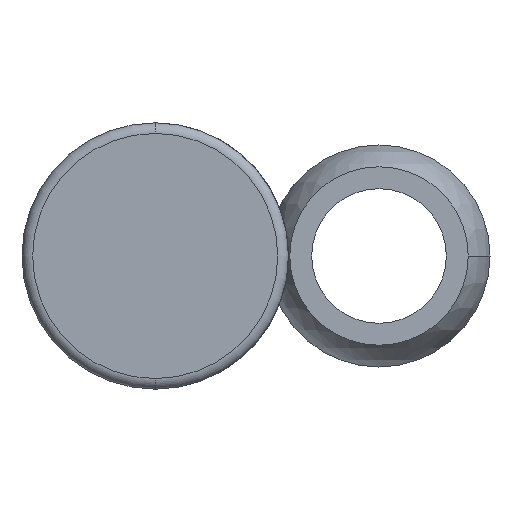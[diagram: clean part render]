
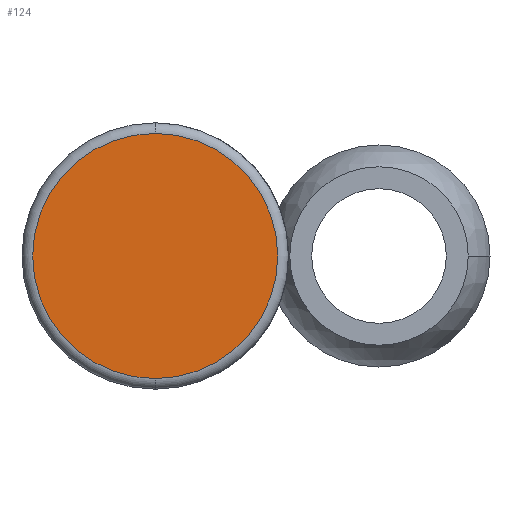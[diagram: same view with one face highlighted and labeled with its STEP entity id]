
A CAD part, front view. The second image highlights one B-rep face of the part: STEP entity #124.
In plain terms, the highlighted planar face has unit normal (0, -1, 0).
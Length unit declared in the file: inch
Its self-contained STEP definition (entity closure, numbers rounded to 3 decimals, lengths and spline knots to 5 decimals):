
#38 = CARTESIAN_POINT ( 'NONE',  ( 0., -1.25, 0. ) ) ;
#124 = ADVANCED_FACE ( 'NONE', ( #383 ), #883, .F. ) ;
#188 = CIRCLE ( 'NONE', #585, 0.345 ) ;
#314 = EDGE_LOOP ( 'NONE', ( #564, #831 ) ) ;
#354 = DIRECTION ( 'NONE',  ( 0., -1., 0. ) ) ;
#383 = FACE_OUTER_BOUND ( 'NONE', #314, .T. ) ;
#390 = AXIS2_PLACEMENT_3D ( 'NONE', #443, #354, #819 ) ;
#429 = CARTESIAN_POINT ( 'NONE',  ( 0., -1.25, 0. ) ) ;
#443 = CARTESIAN_POINT ( 'NONE',  ( 0., -1.25, 0. ) ) ;
#463 = VERTEX_POINT ( 'NONE', #1123 ) ;
#564 = ORIENTED_EDGE ( 'NONE', *, *, #871, .T. ) ;
#578 = DIRECTION ( 'NONE',  ( 0., -1., 0. ) ) ;
#585 = AXIS2_PLACEMENT_3D ( 'NONE', #38, #578, #968 ) ;
#648 = EDGE_CURVE ( 'NONE', #463, #988, #188, .T. ) ;
#704 = DIRECTION ( 'NONE',  ( 0., 0., 1. ) ) ;
#819 = DIRECTION ( 'NONE',  ( 0., 0., 1. ) ) ;
#831 = ORIENTED_EDGE ( 'NONE', *, *, #648, .T. ) ;
#839 = CARTESIAN_POINT ( 'NONE',  ( 0., -1.25, 0.345 ) ) ;
#871 = EDGE_CURVE ( 'NONE', #988, #463, #900, .T. ) ;
#883 = PLANE ( 'NONE',  #970 ) ;
#900 = CIRCLE ( 'NONE', #390, 0.345 ) ;
#968 = DIRECTION ( 'NONE',  ( 0., 0., 1. ) ) ;
#970 = AXIS2_PLACEMENT_3D ( 'NONE', #429, #1081, #704 ) ;
#988 = VERTEX_POINT ( 'NONE', #839 ) ;
#1081 = DIRECTION ( 'NONE',  ( 0., 1., 0. ) ) ;
#1123 = CARTESIAN_POINT ( 'NONE',  ( 0., -1.25, -0.345 ) ) ;
